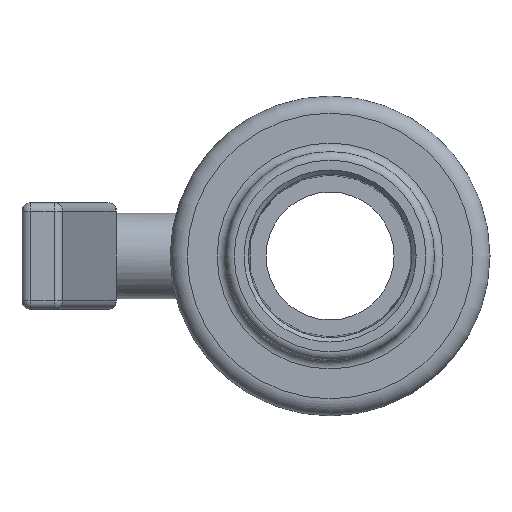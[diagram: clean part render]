
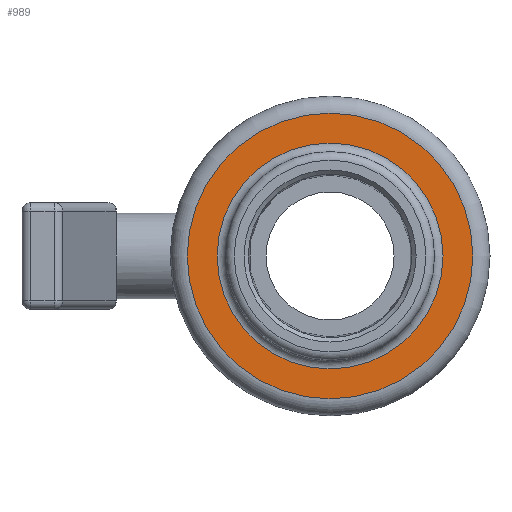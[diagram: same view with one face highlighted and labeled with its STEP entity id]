
A CAD part, left-side view. The second image highlights one B-rep face of the part: STEP entity #989.
In plain terms, the highlighted planar face has unit normal (-1, 0, 0).
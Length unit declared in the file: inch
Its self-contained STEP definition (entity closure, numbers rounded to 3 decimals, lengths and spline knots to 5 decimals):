
#43 = DIRECTION ( 'NONE',  ( 0., 0., -1. ) ) ;
#125 = FACE_BOUND ( 'NONE', #1221, .T. ) ;
#150 = AXIS2_PLACEMENT_3D ( 'NONE', #3839, #3479, #43 ) ;
#989 = ADVANCED_FACE ( 'NONE', ( #125, #1828 ), #4789, .F. ) ;
#1109 = CARTESIAN_POINT ( 'NONE',  ( -1.94198, 1.2205, 0. ) ) ;
#1175 = CARTESIAN_POINT ( 'NONE',  ( -1.94198, 0., 0. ) ) ;
#1221 = EDGE_LOOP ( 'NONE', ( #1336 ) ) ;
#1336 = ORIENTED_EDGE ( 'NONE', *, *, #2988, .T. ) ;
#1609 = DIRECTION ( 'NONE',  ( 0., 0., -1. ) ) ;
#1828 = FACE_OUTER_BOUND ( 'NONE', #2939, .T. ) ;
#1852 = VERTEX_POINT ( 'NONE', #3606 ) ;
#2848 = DIRECTION ( 'NONE',  ( 1., 0., 0. ) ) ;
#2939 = EDGE_LOOP ( 'NONE', ( #5062 ) ) ;
#2988 = EDGE_CURVE ( 'NONE', #1852, #1852, #3534, .T. ) ;
#3219 = EDGE_CURVE ( 'NONE', #4352, #4352, #4398, .T. ) ;
#3273 = DIRECTION ( 'NONE',  ( 0., 0., -1. ) ) ;
#3479 = DIRECTION ( 'NONE',  ( -1., 0., 0. ) ) ;
#3534 = CIRCLE ( 'NONE', #3806, 1.3205 ) ;
#3606 = CARTESIAN_POINT ( 'NONE',  ( -1.94198, 0., -1.3205 ) ) ;
#3806 = AXIS2_PLACEMENT_3D ( 'NONE', #1175, #4100, #3273 ) ;
#3839 = CARTESIAN_POINT ( 'NONE',  ( -1.94198, 0., 0. ) ) ;
#4100 = DIRECTION ( 'NONE',  ( 1., 0., 0. ) ) ;
#4352 = VERTEX_POINT ( 'NONE', #4836 ) ;
#4398 = CIRCLE ( 'NONE', #150, 1.67 ) ;
#4789 = PLANE ( 'NONE',  #5429 ) ;
#4836 = CARTESIAN_POINT ( 'NONE',  ( -1.94198, 0., -1.67 ) ) ;
#5062 = ORIENTED_EDGE ( 'NONE', *, *, #3219, .T. ) ;
#5429 = AXIS2_PLACEMENT_3D ( 'NONE', #1109, #2848, #1609 ) ;
